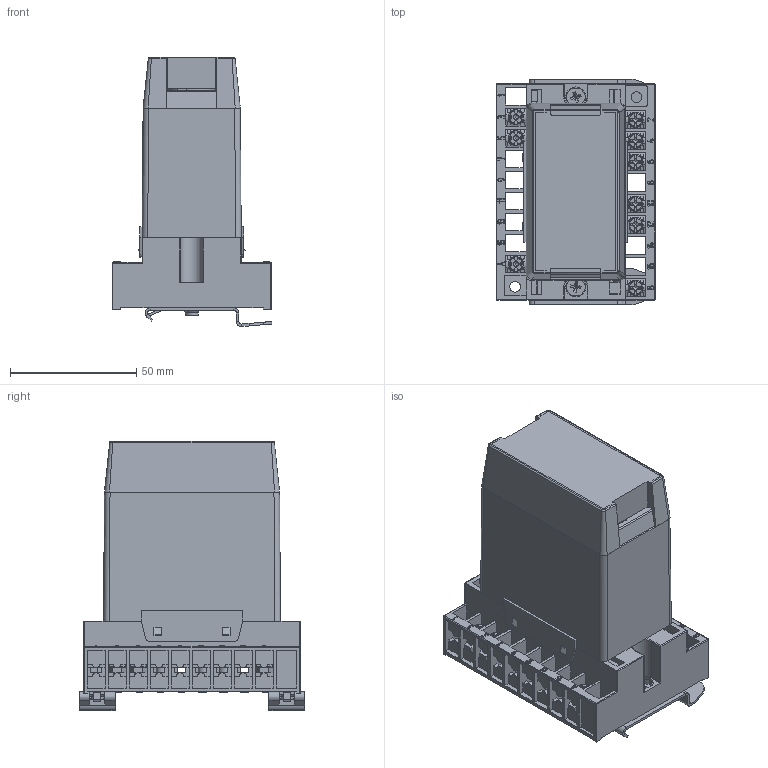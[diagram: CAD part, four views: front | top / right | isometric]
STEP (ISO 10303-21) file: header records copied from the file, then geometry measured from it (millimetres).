
FILE_DESCRIPTION(('STEP AP242'), '1');
FILE_NAME('ÐÑÂ18 (Ñáîðêà) ñ ôèêñàòîðîì', '', ('UNSPECIFIED'), ('UNSPECIFIED'), 'ASCON STEP Converter 1.6', 'ASCON Math Kernel', '');
FILE_SCHEMA(('AP242_MANAGED_MODEL_BASED_3D_ENGINEERING_MIM_LF { 1 0 10303 442 1 1 4 }'));
Length unit declared in the file: millimetre
Assembly tree (2 placements, depth 2):
  (unnamed)
    (unnamed)
    (unnamed)
Bounding box: 63.2 x 89.2 x 106.4 mm (x, y, z)
Volume: 68537.3 mm3; surface area: 91236.5 mm2
Topology: 4 solids, 4 shells, 6114 faces, 17805 edges, 11659 vertices
Faces by surface type: plane 3100, cylinder 2539, bspline 326, cone 86, torus 55, sphere 8
Full cylindrical faces by diameter (mm): 2 x9, 2.45 x9, 3 x20, 3.7 x2, 4 x2, 4.2 x4, 5 x2, 7 x2, 8 x2, 18.8 x2
Entity records: 274810 total; most frequent: CARTESIAN_POINT 63419, ORIENTED_EDGE 35376, DIRECTION 32891, EDGE_CURVE 17688, VERTEX_POINT 11659, LINE 11259, VECTOR 11259, AXIS2_PLACEMENT_3D 10816
